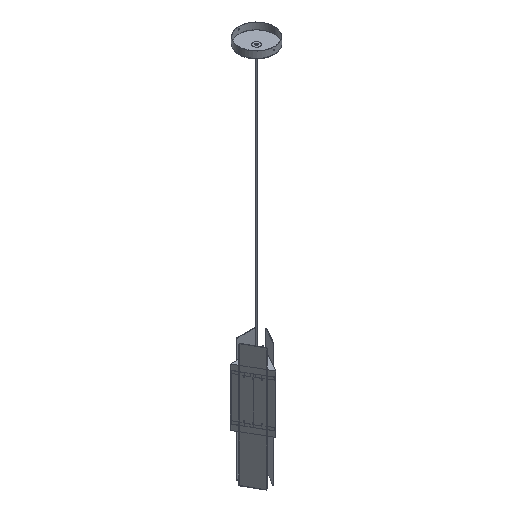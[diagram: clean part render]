
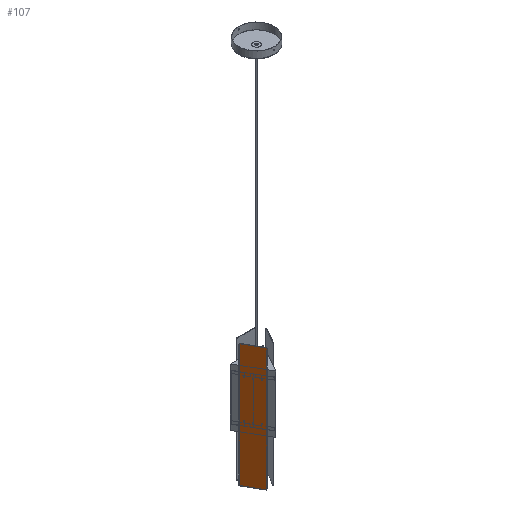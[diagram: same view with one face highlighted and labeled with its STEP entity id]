
A CAD part, isometric view. The second image highlights one B-rep face of the part: STEP entity #107.
In plain terms, the highlighted free-form (B-spline) face has degree [1, 1] with [2, 2] control points.
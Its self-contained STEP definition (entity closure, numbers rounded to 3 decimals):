
#107=ADVANCED_FACE('',(#297),#4287,.T.);
#297=FACE_OUTER_BOUND('',#459,.T.);
#459=EDGE_LOOP('',(#891,#892));
#891=ORIENTED_EDGE('',*,*,#3409,.T.);
#892=ORIENTED_EDGE('',*,*,#3410,.T.);
#1410=B_SPLINE_CURVE_WITH_KNOTS('',1,(#7936,#7937),.UNSPECIFIED.,.F.,.F.,
(2,2),(-522.425,0.),.UNSPECIFIED.);
#1411=B_SPLINE_CURVE_WITH_KNOTS('',1,(#7938,#7939),.UNSPECIFIED.,.F.,.F.,
(2,2),(-1044.85,-522.425),.UNSPECIFIED.);
#2019=PCURVE('',#4287,#2639);
#2020=PCURVE('',#4287,#2640);
#2032=PCURVE('',#4243,#2652);
#2033=PCURVE('',#4244,#2653);
#2639=DEFINITIONAL_REPRESENTATION('',(#3832),#10550);
#2640=DEFINITIONAL_REPRESENTATION('',(#3834),#10550);
#2652=DEFINITIONAL_REPRESENTATION('',(#1410),#10550);
#2653=DEFINITIONAL_REPRESENTATION('',(#1411),#10550);
#3091=SURFACE_CURVE('',#3831,(#2019,#2033),.PCURVE_S1.);
#3092=SURFACE_CURVE('',#3833,(#2020,#2032),.PCURVE_S1.);
#3409=EDGE_CURVE('',#4093,#4101,#3091,.T.);
#3410=EDGE_CURVE('',#4101,#4093,#3092,.T.);
#3831=(
BOUNDED_CURVE()
B_SPLINE_CURVE(2,(#7778,#7779,#7780,#7781,#7782,#7783,#7784,#7785,#7786),
 .UNSPECIFIED.,.F.,.F.)
B_SPLINE_CURVE_WITH_KNOTS((3,2,2,2,3),(-1044.85,-600.85,
-596.137,-527.137,-522.425),.UNSPECIFIED.)
CURVE()
GEOMETRIC_REPRESENTATION_ITEM()
RATIONAL_B_SPLINE_CURVE((1.,1.,1.,0.707,1.,1.,1.,0.707,
1.))
REPRESENTATION_ITEM('')
);
#3832=(
BOUNDED_CURVE()
B_SPLINE_CURVE(2,(#7787,#7788,#7789,#7790,#7791,#7792,#7793,#7794,#7795),
 .UNSPECIFIED.,.F.,.F.)
B_SPLINE_CURVE_WITH_KNOTS((3,2,2,2,3),(-1044.85,-600.85,
-596.137,-527.137,-522.425),.UNSPECIFIED.)
CURVE()
GEOMETRIC_REPRESENTATION_ITEM()
RATIONAL_B_SPLINE_CURVE((1.,1.,1.,0.707,1.,1.,1.,0.707,
1.))
REPRESENTATION_ITEM('')
);
#3833=(
BOUNDED_CURVE()
B_SPLINE_CURVE(2,(#7796,#7797,#7798,#7799,#7800,#7801,#7802,#7803,#7804),
 .UNSPECIFIED.,.F.,.F.)
B_SPLINE_CURVE_WITH_KNOTS((3,2,2,2,3),(-522.425,-78.425,
-73.712,-4.712,0.),.UNSPECIFIED.)
CURVE()
GEOMETRIC_REPRESENTATION_ITEM()
RATIONAL_B_SPLINE_CURVE((1.,1.,1.,0.707,1.,1.,1.,0.707,
1.))
REPRESENTATION_ITEM('')
);
#3834=(
BOUNDED_CURVE()
B_SPLINE_CURVE(2,(#7805,#7806,#7807,#7808,#7809,#7810,#7811,#7812,#7813),
 .UNSPECIFIED.,.F.,.F.)
B_SPLINE_CURVE_WITH_KNOTS((3,2,2,2,3),(-522.425,-78.425,
-73.712,-4.712,0.),.UNSPECIFIED.)
CURVE()
GEOMETRIC_REPRESENTATION_ITEM()
RATIONAL_B_SPLINE_CURVE((1.,1.,1.,0.707,1.,1.,1.,0.707,
1.))
REPRESENTATION_ITEM('')
);
#4093=VERTEX_POINT('',#7768);
#4101=VERTEX_POINT('',#7776);
#4243=(
BOUNDED_SURFACE()
B_SPLINE_SURFACE(2,1,((#7732,#7733),(#7734,#7735),(#7736,#7737),(#7738,
#7739),(#7740,#7741),(#7742,#7743),(#7744,#7745),(#7746,#7747),(#7748,#7749)),
 .UNSPECIFIED.,.F.,.F.,.F.)
B_SPLINE_SURFACE_WITH_KNOTS((3,2,2,2,3),(2,2),(0.,4.712,73.712,
78.425,522.425),(0.,1.),.UNSPECIFIED.)
GEOMETRIC_REPRESENTATION_ITEM()
RATIONAL_B_SPLINE_SURFACE(((1.,1.),(0.707,0.707),
(1.,1.),(1.,1.),(1.,1.),(0.707,0.707),(1.,1.),(1.,
1.),(1.,1.)))
REPRESENTATION_ITEM('')
SURFACE()
);
#4244=(
BOUNDED_SURFACE()
B_SPLINE_SURFACE(2,1,((#7750,#7751),(#7752,#7753),(#7754,#7755),(#7756,
#7757),(#7758,#7759),(#7760,#7761),(#7762,#7763),(#7764,#7765),(#7766,#7767)),
 .UNSPECIFIED.,.F.,.F.,.F.)
B_SPLINE_SURFACE_WITH_KNOTS((3,2,2,2,3),(2,2),(522.425,527.137,
596.137,600.85,1044.85),(0.,1.),
 .UNSPECIFIED.)
GEOMETRIC_REPRESENTATION_ITEM()
RATIONAL_B_SPLINE_SURFACE(((1.,1.),(0.707,0.707),
(1.,1.),(1.,1.),(1.,1.),(0.707,0.707),(1.,1.),(1.,
1.),(1.,1.)))
REPRESENTATION_ITEM('')
SURFACE()
);
#4287=B_SPLINE_SURFACE_WITH_KNOTS('',1,1,((#7724,#7725),(#7726,#7727)),
 .UNSPECIFIED.,.F.,.F.,.F.,(2,2),(2,2),(-7.5,451.5),(-0.75,
75.75),.UNSPECIFIED.);
#7724=CARTESIAN_POINT('',(23.443,8.21,-227.904));
#7725=CARTESIAN_POINT('',(-14.807,74.461,-227.904));
#7726=CARTESIAN_POINT('',(23.443,8.21,231.096));
#7727=CARTESIAN_POINT('',(-14.807,74.461,231.096));
#7732=CARTESIAN_POINT('',(23.068,8.86,-220.404));
#7733=CARTESIAN_POINT('',(24.367,9.61,-220.404));
#7734=CARTESIAN_POINT('',(23.068,8.86,-223.404));
#7735=CARTESIAN_POINT('',(24.367,9.61,-223.404));
#7736=CARTESIAN_POINT('',(21.568,11.458,-223.404));
#7737=CARTESIAN_POINT('',(22.867,12.208,-223.404));
#7738=CARTESIAN_POINT('',(4.318,41.336,-223.404));
#7739=CARTESIAN_POINT('',(5.617,42.086,-223.404));
#7740=CARTESIAN_POINT('',(-12.932,71.214,-223.404));
#7741=CARTESIAN_POINT('',(-11.633,71.964,-223.404));
#7742=CARTESIAN_POINT('',(-14.432,73.812,-223.404));
#7743=CARTESIAN_POINT('',(-13.133,74.562,-223.404));
#7744=CARTESIAN_POINT('',(-14.432,73.812,-220.404));
#7745=CARTESIAN_POINT('',(-13.133,74.562,-220.404));
#7746=CARTESIAN_POINT('',(-14.432,73.812,1.596));
#7747=CARTESIAN_POINT('',(-13.133,74.562,1.596));
#7748=CARTESIAN_POINT('',(-14.432,73.812,223.596));
#7749=CARTESIAN_POINT('',(-13.133,74.562,223.596));
#7750=CARTESIAN_POINT('',(-14.432,73.812,223.596));
#7751=CARTESIAN_POINT('',(-13.133,74.562,223.596));
#7752=CARTESIAN_POINT('',(-14.432,73.812,226.596));
#7753=CARTESIAN_POINT('',(-13.133,74.562,226.596));
#7754=CARTESIAN_POINT('',(-12.932,71.214,226.596));
#7755=CARTESIAN_POINT('',(-11.633,71.964,226.596));
#7756=CARTESIAN_POINT('',(4.318,41.336,226.596));
#7757=CARTESIAN_POINT('',(5.617,42.086,226.596));
#7758=CARTESIAN_POINT('',(21.568,11.458,226.596));
#7759=CARTESIAN_POINT('',(22.867,12.208,226.596));
#7760=CARTESIAN_POINT('',(23.068,8.86,226.596));
#7761=CARTESIAN_POINT('',(24.367,9.61,226.596));
#7762=CARTESIAN_POINT('',(23.068,8.86,223.596));
#7763=CARTESIAN_POINT('',(24.367,9.61,223.596));
#7764=CARTESIAN_POINT('',(23.068,8.86,1.596));
#7765=CARTESIAN_POINT('',(24.367,9.61,1.596));
#7766=CARTESIAN_POINT('',(23.068,8.86,-220.404));
#7767=CARTESIAN_POINT('',(24.367,9.61,-220.404));
#7768=CARTESIAN_POINT('',(23.068,8.86,-220.404));
#7776=CARTESIAN_POINT('',(-14.432,73.812,223.596));
#7778=CARTESIAN_POINT('',(23.068,8.86,-220.404));
#7779=CARTESIAN_POINT('',(23.068,8.86,1.596));
#7780=CARTESIAN_POINT('',(23.068,8.86,223.596));
#7781=CARTESIAN_POINT('',(23.068,8.86,226.596));
#7782=CARTESIAN_POINT('',(21.568,11.458,226.596));
#7783=CARTESIAN_POINT('',(4.318,41.336,226.596));
#7784=CARTESIAN_POINT('',(-12.932,71.214,226.596));
#7785=CARTESIAN_POINT('',(-14.432,73.812,226.596));
#7786=CARTESIAN_POINT('',(-14.432,73.812,223.596));
#7787=CARTESIAN_POINT('',(0.,0.));
#7788=CARTESIAN_POINT('',(222.,0.));
#7789=CARTESIAN_POINT('',(444.,0.));
#7790=CARTESIAN_POINT('',(447.,0.));
#7791=CARTESIAN_POINT('',(447.,3.));
#7792=CARTESIAN_POINT('',(447.,37.5));
#7793=CARTESIAN_POINT('',(447.,72.));
#7794=CARTESIAN_POINT('',(447.,75.));
#7795=CARTESIAN_POINT('',(444.,75.));
#7796=CARTESIAN_POINT('',(-14.432,73.812,223.596));
#7797=CARTESIAN_POINT('',(-14.432,73.812,1.596));
#7798=CARTESIAN_POINT('',(-14.432,73.812,-220.404));
#7799=CARTESIAN_POINT('',(-14.432,73.812,-223.404));
#7800=CARTESIAN_POINT('',(-12.932,71.214,-223.404));
#7801=CARTESIAN_POINT('',(4.318,41.336,-223.404));
#7802=CARTESIAN_POINT('',(21.568,11.458,-223.404));
#7803=CARTESIAN_POINT('',(23.068,8.86,-223.404));
#7804=CARTESIAN_POINT('',(23.068,8.86,-220.404));
#7805=CARTESIAN_POINT('',(444.,75.));
#7806=CARTESIAN_POINT('',(222.,75.));
#7807=CARTESIAN_POINT('',(0.,75.));
#7808=CARTESIAN_POINT('',(-3.,75.));
#7809=CARTESIAN_POINT('',(-3.,72.));
#7810=CARTESIAN_POINT('',(-3.,37.5));
#7811=CARTESIAN_POINT('',(-3.,3.));
#7812=CARTESIAN_POINT('',(-3.,0.));
#7813=CARTESIAN_POINT('',(0.,0.));
#7936=CARTESIAN_POINT('',(522.425,0.));
#7937=CARTESIAN_POINT('',(0.,0.));
#7938=CARTESIAN_POINT('',(1044.85,0.));
#7939=CARTESIAN_POINT('',(522.425,0.));
#10550=(
GEOMETRIC_REPRESENTATION_CONTEXT(2)
PARAMETRIC_REPRESENTATION_CONTEXT()
REPRESENTATION_CONTEXT('pspace','')
);
